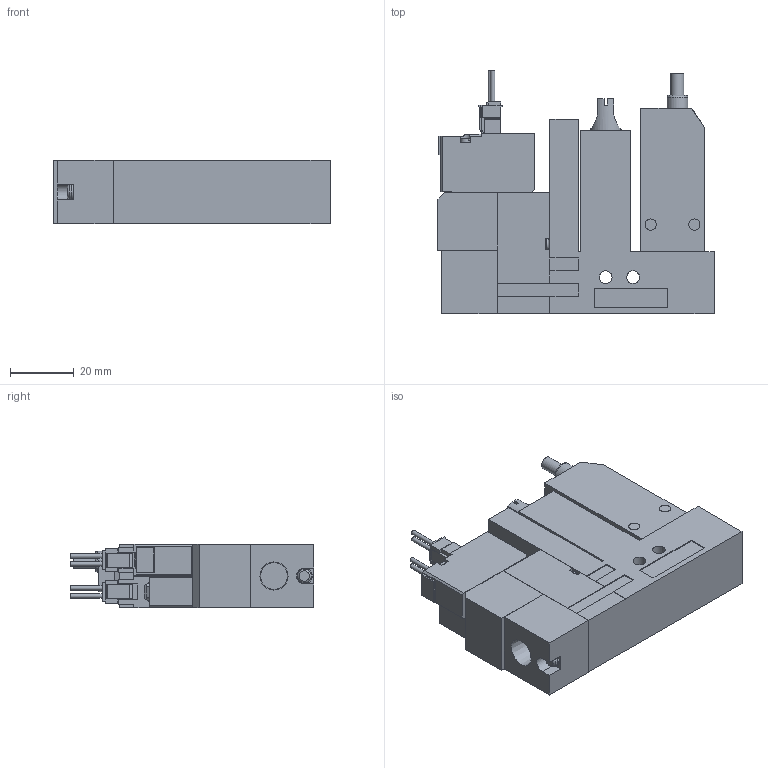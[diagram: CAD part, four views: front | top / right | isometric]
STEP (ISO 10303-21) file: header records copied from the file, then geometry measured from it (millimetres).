
FILE_DESCRIPTION(('STEP AP203'),'1');
FILE_NAME('ABS_ABPL5ALR.stp','2025-02-17T00:03:55',(' '),(' '),'Spatial InterOp 3D',' ',' ');
FILE_SCHEMA(('CONFIG_CONTROL_DESIGN'));
Length unit declared in the file: millimetre
Products named in the file (5): BMC22S※※※※ABS_ABPL5ALR; Solenoid valve A; Pressure sensor ABSL; Unit L; Base SR10R
Assembly tree (4 placements, depth 2):
  BMC22S※※※※ABS_ABPL5ALR
    Solenoid valve A
    Pressure sensor ABSL
    Unit L
    Base SR10R
Bounding box: 86.6 x 76.45 x 20 mm (x, y, z)
Volume: 89817.7 mm3; surface area: 24568.6 mm2
Topology: 4 solids, 4 shells, 378 faces, 1002 edges, 660 vertices
Faces by surface type: plane 324, cylinder 44, cone 6, torus 4
Full cylindrical faces by diameter (mm): 1.4 x4, 2.5 x1, 3 x4, 3.5 x6, 3.6 x1, 4 x3, 4.134 x1, 6 x1, 6.5 x1
Entity records: 11686 total; most frequent: CARTESIAN_POINT 2096, ORIENTED_EDGE 1926, DIRECTION 1850, EDGE_CURVE 963, LINE 834, VECTOR 834, VERTEX_POINT 654, AXIS2_PLACEMENT_3D 508
